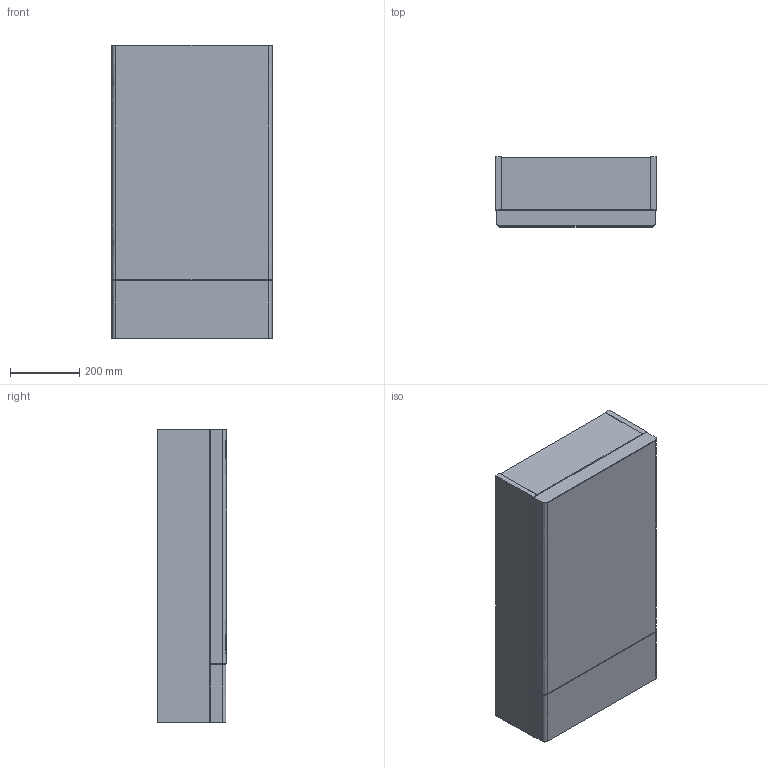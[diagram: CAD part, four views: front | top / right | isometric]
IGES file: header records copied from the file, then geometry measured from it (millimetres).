
Global section: file name: 501413; native system: Autodesk Inventor 2018; preprocessor: unknown; author: JANAN; date: 20191126.145946; units: millimetre
Bounding box: 464 x 202.11 x 850 mm (x, y, z)
Volume: 28169144.3 mm3; surface area: 2810764.6 mm2
Topology: 3 solids, 3 shells, 56 faces, 146 edges, 96 vertices
Faces by surface type: bspline 56
